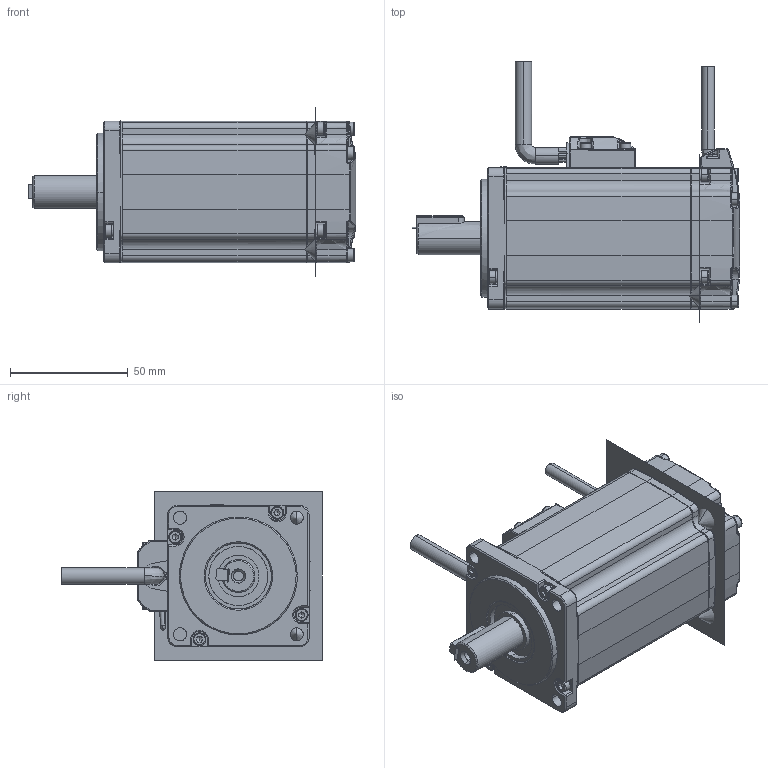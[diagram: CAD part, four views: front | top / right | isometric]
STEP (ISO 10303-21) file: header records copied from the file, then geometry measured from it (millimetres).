
FILE_DESCRIPTION(/* description */ (''),/* implementation_level */ '2;1');
FILE_NAME(/* name */ 'MXL-02~1',/* time_stamp */ '2020-07-21T14:36:10+01:00',/* author */ (''),/* organization */ (''),/* preprocessor_version */ 'ST-DEVELOPER v15',/* originating_system */ '',/* authorisation */ '');
FILE_SCHEMA (('AUTOMOTIVE_DESIGN'));
Length unit declared in the file: millimetre
Products named in the file (1): Document
Bounding box: 139 x 110.64 x 71.28 mm (x, y, z)
Surface area: 48125.3 mm2 (no closed solid volume)
Topology: 0 solids, 86 shells, 966 faces, 2801 edges, 1837 vertices
Faces by surface type: bspline 661, plane 305
Entity records: 44766 total; most frequent: CARTESIAN_POINT 29730, ORIENTED_EDGE 4541, EDGE_CURVE 2745, VERTEX_POINT 1842, B_SPLINE_CURVE_WITH_KNOTS 1615, EDGE_LOOP 1068, ADVANCED_FACE 965, FACE_OUTER_BOUND 965
